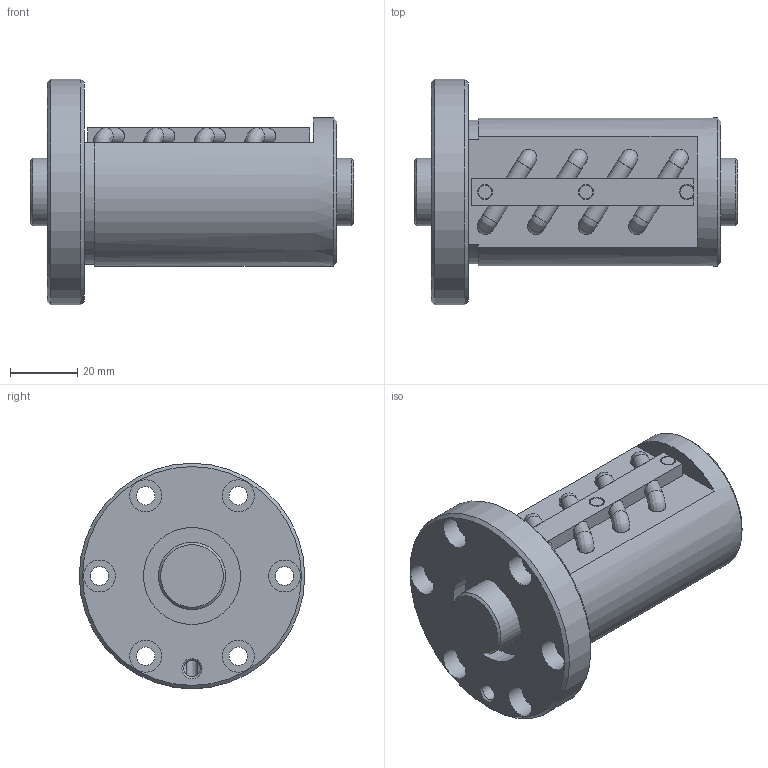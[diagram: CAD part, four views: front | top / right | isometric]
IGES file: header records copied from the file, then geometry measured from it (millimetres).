
Start section: Data from Parasolid IGES Translator 26.0.171, Copyright(c) 2006 Siemens PLM Software. All Rights Reserved.
Global section: file name: BIF2005V-10RRG0+96LC0_000.igs; native system: By Siemens PLM Incorporated; preprocessor: XPlus GENERIC/IGES 26.0.171; author: Noname; organization: Noname; date: 20240715.081655; units: millimetre
Bounding box: 96 x 67 x 67 mm (x, y, z)
Surface area: 34021.4 mm2 (no closed solid volume)
Topology: 0 solids, 0 shells, 114 faces, 548 edges, 502 vertices
Faces by surface type: revolution 61, extrusion 53
